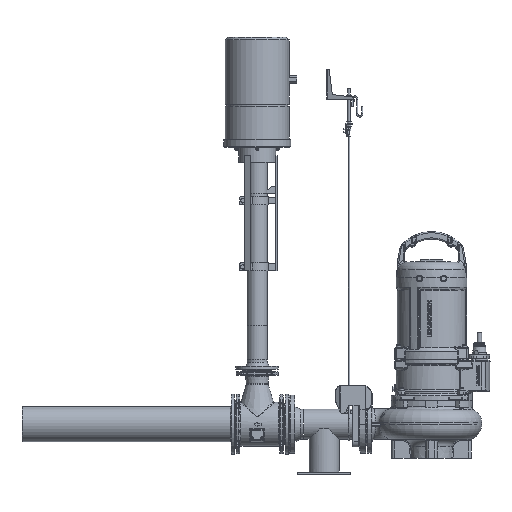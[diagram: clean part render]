
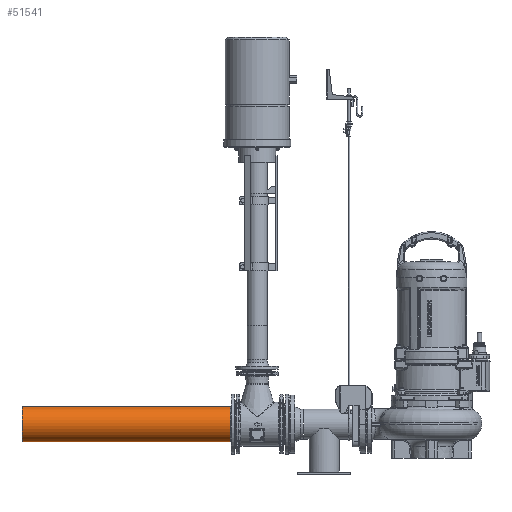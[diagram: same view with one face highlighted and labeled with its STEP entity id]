
A CAD part, left-side view. The second image highlights one B-rep face of the part: STEP entity #51541.
In plain terms, the highlighted cylindrical face has radius 66.5 mm (diameter 133 mm), a full revolution.
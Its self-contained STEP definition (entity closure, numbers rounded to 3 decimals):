
#4958=FACE_OUTER_BOUND('',#8184,.T.);
#8184=EDGE_LOOP('',(#33347,#33348,#33349,#33350,#33351));
#11749=LINE('',#76908,#14514);
#14514=VECTOR('',#61862,66.5);
#17306=CIRCLE('',#55568,66.5);
#17307=CIRCLE('',#55569,66.5);
#17308=CIRCLE('',#55571,66.5);
#20592=VERTEX_POINT('',#76900);
#20593=VERTEX_POINT('',#76902);
#20594=VERTEX_POINT('',#76906);
#25488=EDGE_CURVE('',#20592,#20593,#17306,.T.);
#25489=EDGE_CURVE('',#20593,#20592,#17307,.T.);
#25490=EDGE_CURVE('',#20594,#20594,#17308,.T.);
#25491=EDGE_CURVE('',#20594,#20593,#11749,.T.);
#33347=ORIENTED_EDGE('',*,*,#25490,.T.);
#33348=ORIENTED_EDGE('',*,*,#25491,.T.);
#33349=ORIENTED_EDGE('',*,*,#25488,.F.);
#33350=ORIENTED_EDGE('',*,*,#25489,.F.);
#33351=ORIENTED_EDGE('',*,*,#25491,.F.);
#48754=CYLINDRICAL_SURFACE('',#55570,66.5);
#51541=ADVANCED_FACE('',(#4958),#48754,.T.);
#55568=AXIS2_PLACEMENT_3D('',#76903,#61854,#61855);
#55569=AXIS2_PLACEMENT_3D('',#76904,#61856,#61857);
#55570=AXIS2_PLACEMENT_3D('',#76905,#61858,#61859);
#55571=AXIS2_PLACEMENT_3D('',#76907,#61860,#61861);
#61854=DIRECTION('center_axis',(0.,0.,-1.));
#61855=DIRECTION('ref_axis',(-1.,0.,0.));
#61856=DIRECTION('center_axis',(0.,0.,-1.));
#61857=DIRECTION('ref_axis',(-1.,0.,0.));
#61858=DIRECTION('center_axis',(0.,0.,1.));
#61859=DIRECTION('ref_axis',(1.,0.,0.));
#61860=DIRECTION('center_axis',(0.,0.,-1.));
#61861=DIRECTION('ref_axis',(1.,0.,0.));
#61862=DIRECTION('',(0.,0.,-1.));
#76900=CARTESIAN_POINT('',(66.5,0.,15.));
#76902=CARTESIAN_POINT('',(-66.5,0.,15.));
#76903=CARTESIAN_POINT('Origin',(0.,0.,15.));
#76904=CARTESIAN_POINT('Origin',(0.,0.,15.));
#76905=CARTESIAN_POINT('Origin',(0.,0.,0.));
#76906=CARTESIAN_POINT('',(-66.5,0.,800.));
#76907=CARTESIAN_POINT('Origin',(0.,0.,800.));
#76908=CARTESIAN_POINT('',(-66.5,0.,0.));
